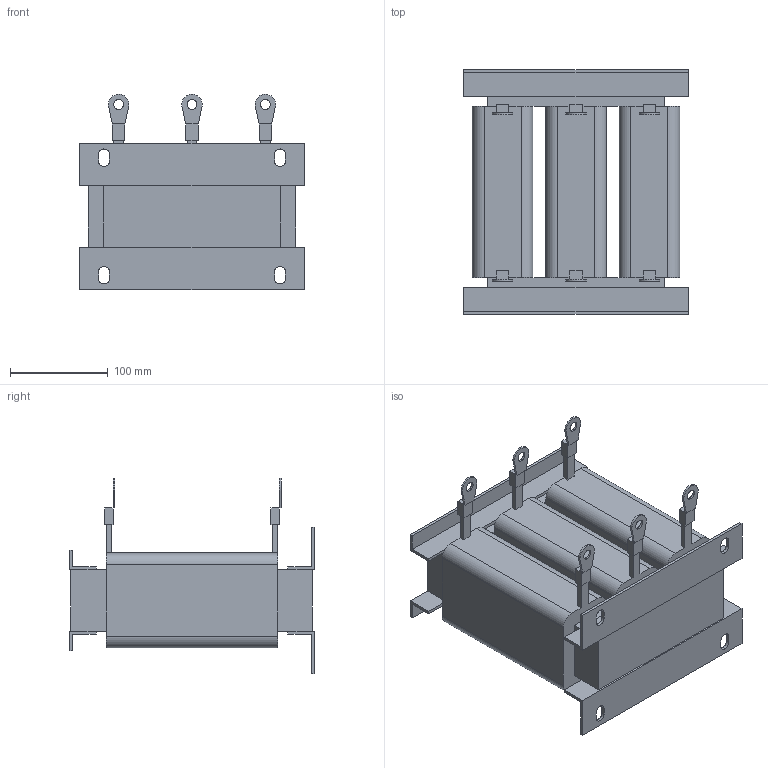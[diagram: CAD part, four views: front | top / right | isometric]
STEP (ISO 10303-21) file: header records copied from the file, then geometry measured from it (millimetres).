
FILE_DESCRIPTION(/* description */ (''),/* implementation_level */ '2;1');
FILE_NAME(/* name */ 'ACO-0035-T6-4.stp',/* time_stamp */ '2025-01-28T15:34:26+04:00',/* author */ ('Александр (огранич)'),/* organization */ (''),/* preprocessor_version */ 'ST-DEVELOPER v19.2',/* originating_system */ 'Autodesk Inventor 2024',/* authorisation */ '');
FILE_SCHEMA (('AUTOMOTIVE_DESIGN { 1 0 10303 214 3 1 1 }'));
Length unit declared in the file: millimetre
Products named in the file (1): ACO-0015-T4-4
Bounding box: 230 x 250 x 199.96 mm (x, y, z)
Volume: 4085978.4 mm3; surface area: 321962.9 mm2
Topology: 7 solids, 7 shells, 190 faces, 498 edges, 324 vertices
Faces by surface type: plane 158, cylinder 32
Full cylindrical faces by diameter (mm): 10 x6
Entity records: 5839 total; most frequent: CARTESIAN_POINT 1013, ORIENTED_EDGE 996, DIRECTION 944, EDGE_CURVE 498, LINE 434, VECTOR 434, VERTEX_POINT 324, AXIS2_PLACEMENT_3D 255
